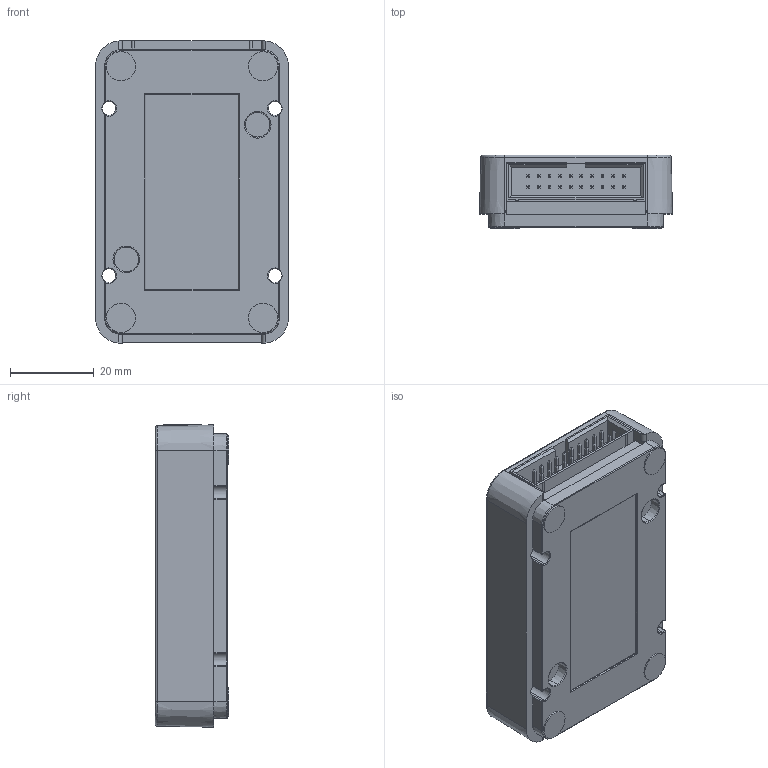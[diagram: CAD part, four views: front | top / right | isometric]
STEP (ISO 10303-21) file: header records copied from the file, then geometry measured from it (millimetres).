
FILE_DESCRIPTION (( 'STEP AP214' ), '1' );
FILE_NAME ('Assembly_JLinkUltraCompact_WEB.STEP', '2026-02-18T15:46:27', ( '' ), ( '' ), 'SwSTEP 2.0', 'SolidWorks 2020', '' );
FILE_SCHEMA (( 'AUTOMOTIVE_DESIGN' ));
Length unit declared in the file: millimetre
Products named in the file (1): Assembly_JLinkUltraCompact_WEB
Bounding box: 46.11 x 17.55 x 72.33 mm (x, y, z)
Volume: 51614.3 mm3; surface area: 24664.7 mm2
Topology: 504 solids, 504 shells, 6268 faces, 14732 edges, 9482 vertices
Faces by surface type: plane 4714, cylinder 1298, sphere 154, torus 46, cone 44, bspline 12
Entity records: 251568 total; most frequent: CARTESIAN_POINT 32762, ORIENTED_EDGE 29376, DIRECTION 29250, EDGE_CURVE 14688, LINE 11692, VECTOR 11692, VERTEX_POINT 9458, AXIS2_PLACEMENT_3D 8779
